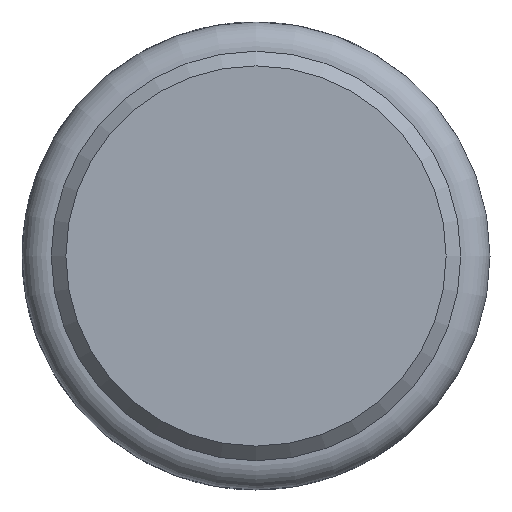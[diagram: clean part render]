
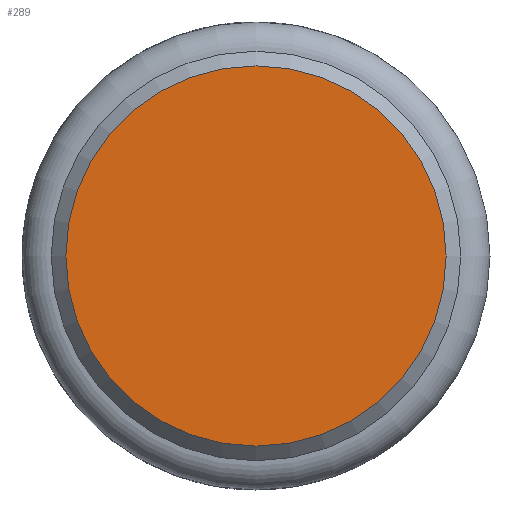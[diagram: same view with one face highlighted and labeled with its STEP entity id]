
A CAD part, left-side view. The second image highlights one B-rep face of the part: STEP entity #289.
In plain terms, the highlighted planar face has unit normal (-1, 0, 0).
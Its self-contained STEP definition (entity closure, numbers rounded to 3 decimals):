
#37 = AXIS2_PLACEMENT_3D ( 'NONE', #1399, #1285, #1417 ) ;
#182 = CARTESIAN_POINT ( 'NONE',  ( 0., 0., -8. ) ) ;
#289 = ADVANCED_FACE ( 'NONE', ( #409 ), #1338, .F. ) ;
#408 = DIRECTION ( 'NONE',  ( 1., 0., 0. ) ) ;
#409 = FACE_OUTER_BOUND ( 'NONE', #1277, .T. ) ;
#750 = DIRECTION ( 'NONE',  ( 0., 0., -1. ) ) ;
#896 = EDGE_CURVE ( 'NONE', #1378, #1378, #1130, .T. ) ;
#984 = AXIS2_PLACEMENT_3D ( 'NONE', #182, #408, #750 ) ;
#1078 = CARTESIAN_POINT ( 'NONE',  ( 0., 0., -6.5 ) ) ;
#1084 = ORIENTED_EDGE ( 'NONE', *, *, #896, .T. ) ;
#1130 = CIRCLE ( 'NONE', #37, 6.5 ) ;
#1277 = EDGE_LOOP ( 'NONE', ( #1084 ) ) ;
#1285 = DIRECTION ( 'NONE',  ( -1., 0., 0. ) ) ;
#1338 = PLANE ( 'NONE',  #984 ) ;
#1378 = VERTEX_POINT ( 'NONE', #1078 ) ;
#1399 = CARTESIAN_POINT ( 'NONE',  ( 0., 0., 0. ) ) ;
#1417 = DIRECTION ( 'NONE',  ( 0., 0., -1. ) ) ;
